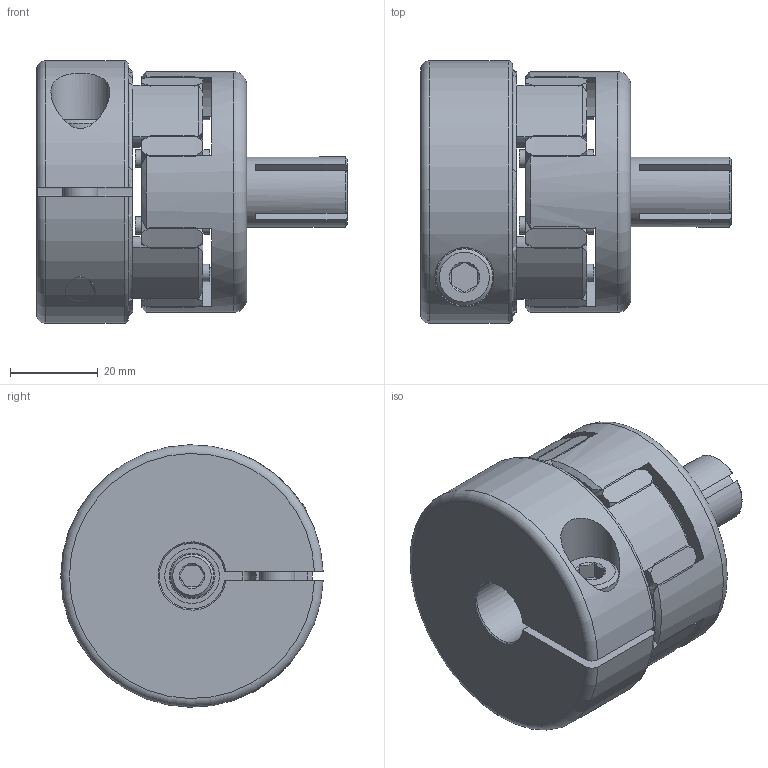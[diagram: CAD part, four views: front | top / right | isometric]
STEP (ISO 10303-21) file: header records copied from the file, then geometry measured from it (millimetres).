
FILE_DESCRIPTION(/* description */ ('STEP AP214'),/* implementation_level */ '2;1');
FILE_NAME(/* name */ 'EKS 50 - D1=15 D2=16',/* time_stamp */ '2026-10-28T12:29:05+01:00',/* author */ ('License CC BY-ND 4.0'),/* organization */ ('CADENAS'),/* preprocessor_version */ 'ST-DEVELOPER v20',/* originating_system */ 'PARTsolutions',/* authorisation */ ' ');
FILE_SCHEMA (('AUTOMOTIVE_DESIGN {1 0 10303 214 3 1 1}'));
Length unit declared in the file: millimetre
Products named in the file (6): EKS 50 - D1=15 D2=16; EKS 50 - D1=15_1_part1; 60; EKS 50 - D2=16_part2; Cylinder screw ISO 4762 M6x25; Cylinder screw ISO 4762 M8x25
Assembly tree (5 placements, depth 2):
  EKS 50 - D1=15 D2=16
    EKS 50 - D1=15_1_part1
    60
    EKS 50 - D2=16_part2
    Cylinder screw ISO 4762 M6x25
    Cylinder screw ISO 4762 M8x25
Bounding box: 71 x 59.98 x 59.99 mm (x, y, z)
Volume: 105331 mm3; surface area: 35077.3 mm2
Topology: 5 solids, 5 shells, 266 faces, 642 edges, 398 vertices
Faces by surface type: cone 101, cylinder 87, plane 68, torus 10
Full cylindrical faces by diameter (mm): 4 x8, 5 x1, 6 x1, 6.4 x1, 6.8 x1, 8 x1, 8.6 x1, 10 x2, 10.5 x1, 12.5 x1, 13 x1, 13.5 x1, 16 x1, 27 x2, 55 x1
Entity records: 8423 total; most frequent: CARTESIAN_POINT 1742, DIRECTION 1310, ORIENTED_EDGE 1190, EDGE_CURVE 595, AXIS2_PLACEMENT_3D 586, VERTEX_POINT 394, EDGE_LOOP 335, FACE_BOUND 335
